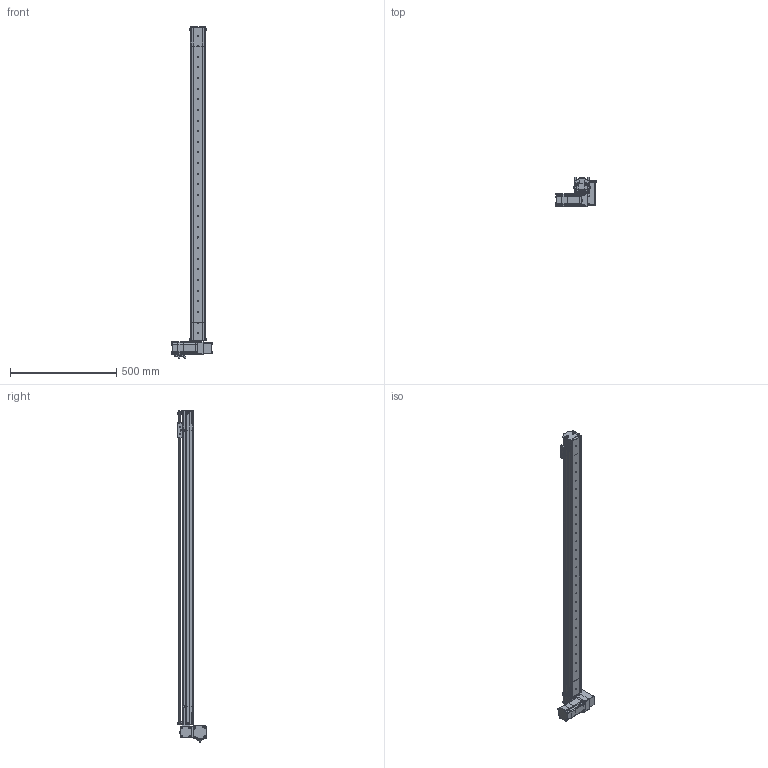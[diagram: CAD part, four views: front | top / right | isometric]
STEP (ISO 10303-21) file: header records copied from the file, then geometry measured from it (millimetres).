
FILE_DESCRIPTION (( 'STEP AP214' ), '1' );
FILE_NAME ('S07 TBN LU S1300.STEP', '2010-06-29T11:59:41', ( 'Conseil Régional Haute-Normandie' ), ( 'Conseil Régional Haute-Normandie' ), 'SwSTEP 2.0', 'SolidWorks 2010', '' );
FILE_SCHEMA (( 'AUTOMOTIVE_DESIGN' ));
Length unit declared in the file: millimetre
Products named in the file (41): Course C L1300_Default; Pièce5^S07 LU(146); Couroie t皻e_Default; Conecteur 60BLDC_Default; Conecteur2 60BLDC_Default; renvoi LU_Default; Plaque racord_Default; P1_Default; GMB 60 90 310_Default; P3 90A_Default; P2 90A_Default; P4_Default; Axe 60BLDC_Default; VisM3_Default; couvercle S07 course 1300 ; Corp S07 course 1300_Default; cache t皻e_Default; Cvis M5 L30_Default; Vis M5 L16-2_Default; vis M5 L16_Default; Chariot; Poulie_Default; T皻e de poulie_Default; guide; CHariot_Default; couroie tail_Default; vis M5 L12_Default; couvercle tail TB; plaque de bout_Default; corp tail TB_Default; S07 TB tail (78)_Default; S07 TBN LU S1300; vis M5 L5_Default; S07 LU(146)_Default; cache t皻e axe_Default; corp moteur TB(146)_Default; couvercle moteur S07 TB; plaque de bout LU_Default; Couroie  course 1300_Default; Poulie head_Default
Assembly tree (80 placements, depth 4):
  Pièce5^S07 LU(146)
  S07 TBN LU S1300
    S07 TB tail (78)_Default
      plaque de bout_Default
      couroie tail_Default
      vis M5 L12_Default  x10
      couvercle tail TB
      Poulie_Default
        Poulie_Default
        T皻e de poulie_Default
      corp tail TB_Default
    Course C L1300_Default
      Corp S07 course 1300_Default
      couvercle S07 course 1300 
      Couroie  course 1300_Default
    S07 LU(146)_Default
      vis M5 L5_Default  x6
      Plaque racord_Default
      vis M5 L12_Default  x6
      Vis M5 L16-2_Default  x8
      cache t皻e axe_Default
      corp moteur TB(146)_Default
      cache t皻e_Default  x2
      couvercle moteur S07 TB
      Couroie t皻e_Default
      GMB 60 90 310_Default
        Conecteur 60BLDC_Default
        Axe 60BLDC_Default
        VisM3_Default  x12
        P4_Default
        P2 90A_Default
        P1_Default
        Conecteur2 60BLDC_Default
        P3 90A_Default
      renvoi LU_Default
      Cvis M5 L30_Default  x2
      Poulie head_Default
      plaque de bout LU_Default
    CHariot_Default
      vis M5 L16_Default  x2
      Chariot
      guide
Bounding box: 190.2 x 134.7 x 1562 mm (x, y, z)
Volume: 3111359.7 mm3; surface area: 1351120.7 mm2
Topology: 102 solids, 102 shells, 3950 faces, 9834 edges, 6353 vertices
Faces by surface type: plane 2239, cylinder 781, bspline 677, cone 125, torus 124, sphere 4
Entity records: 168029 total; most frequent: CARTESIAN_POINT 75331, ORIENTED_EDGE 15580, DIRECTION 12459, EDGE_CURVE 7790, VERTEX_POINT 5141, LINE 5065, VECTOR 5065, AXIS2_PLACEMENT_3D 3697
